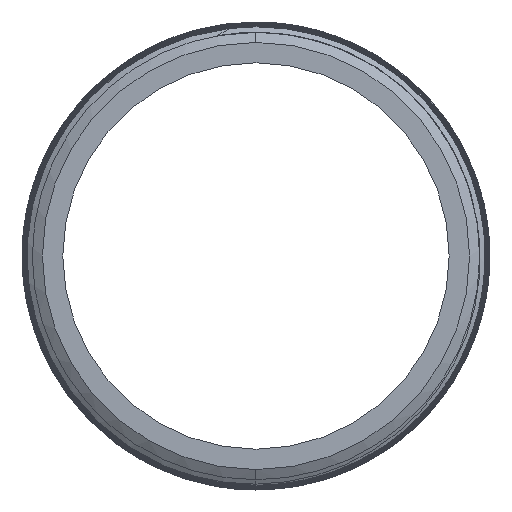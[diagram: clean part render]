
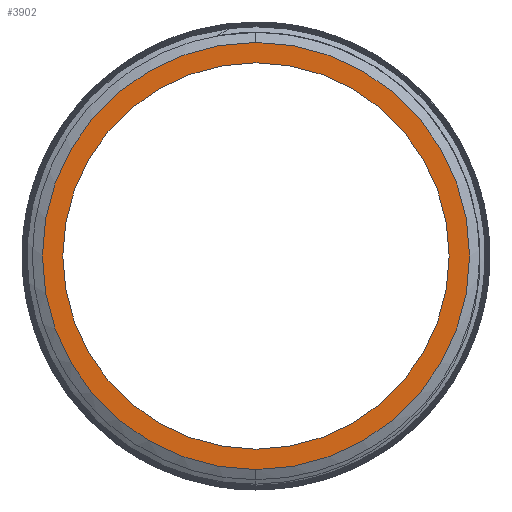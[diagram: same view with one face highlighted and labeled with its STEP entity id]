
A CAD part, left-side view. The second image highlights one B-rep face of the part: STEP entity #3902.
In plain terms, the highlighted planar face has unit normal (-1, 0, 0).
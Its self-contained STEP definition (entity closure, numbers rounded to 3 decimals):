
#55 = VERTEX_POINT ( 'NONE', #9703 ) ;
#447 = FACE_BOUND ( 'NONE', #8622, .T. ) ;
#564 = EDGE_CURVE ( 'NONE', #6176, #8098, #5219, .T. ) ;
#1011 = CARTESIAN_POINT ( 'NONE',  ( -75., 0., 0. ) ) ;
#1030 = CARTESIAN_POINT ( 'NONE',  ( -75., 0., 0. ) ) ;
#1523 = ORIENTED_EDGE ( 'NONE', *, *, #564, .T. ) ;
#2149 = AXIS2_PLACEMENT_3D ( 'NONE', #10056, #10911, #3140 ) ;
#2329 = AXIS2_PLACEMENT_3D ( 'NONE', #5525, #4732, #10816 ) ;
#2675 = ORIENTED_EDGE ( 'NONE', *, *, #8083, .T. ) ;
#2847 = CARTESIAN_POINT ( 'NONE',  ( -75., 0., -7.85 ) ) ;
#3128 = ORIENTED_EDGE ( 'NONE', *, *, #5037, .F. ) ;
#3140 = DIRECTION ( 'NONE',  ( 0., 0., 1. ) ) ;
#3336 = CARTESIAN_POINT ( 'NONE',  ( -75., 7.1, 0. ) ) ;
#3414 = EDGE_CURVE ( 'NONE', #55, #8102, #5043, .T. ) ;
#3902 = ADVANCED_FACE ( 'NONE', ( #447, #4234 ), #7629, .F. ) ;
#4234 = FACE_OUTER_BOUND ( 'NONE', #8612, .T. ) ;
#4732 = DIRECTION ( 'NONE',  ( -1., 0., 0. ) ) ;
#4809 = DIRECTION ( 'NONE',  ( 1., 0., 0. ) ) ;
#5037 = EDGE_CURVE ( 'NONE', #8102, #55, #8522, .T. ) ;
#5043 = CIRCLE ( 'NONE', #2149, 7.1 ) ;
#5219 = CIRCLE ( 'NONE', #2329, 7.85 ) ;
#5455 = CIRCLE ( 'NONE', #8531, 7.85 ) ;
#5525 = CARTESIAN_POINT ( 'NONE',  ( -75., 0., 0. ) ) ;
#5927 = AXIS2_PLACEMENT_3D ( 'NONE', #3336, #4809, #9342 ) ;
#6176 = VERTEX_POINT ( 'NONE', #7486 ) ;
#6183 = ORIENTED_EDGE ( 'NONE', *, *, #3414, .F. ) ;
#6790 = DIRECTION ( 'NONE',  ( 0., 0., 1. ) ) ;
#7486 = CARTESIAN_POINT ( 'NONE',  ( -75., 0., 7.85 ) ) ;
#7629 = PLANE ( 'NONE',  #5927 ) ;
#7814 = DIRECTION ( 'NONE',  ( -1., 0., 0. ) ) ;
#8083 = EDGE_CURVE ( 'NONE', #8098, #6176, #5455, .T. ) ;
#8098 = VERTEX_POINT ( 'NONE', #2847 ) ;
#8102 = VERTEX_POINT ( 'NONE', #8103 ) ;
#8103 = CARTESIAN_POINT ( 'NONE',  ( -75., 0., 7.1 ) ) ;
#8522 = CIRCLE ( 'NONE', #9445, 7.1 ) ;
#8531 = AXIS2_PLACEMENT_3D ( 'NONE', #1030, #10732, #9826 ) ;
#8612 = EDGE_LOOP ( 'NONE', ( #2675, #1523 ) ) ;
#8622 = EDGE_LOOP ( 'NONE', ( #3128, #6183 ) ) ;
#9342 = DIRECTION ( 'NONE',  ( 0., 0., -1. ) ) ;
#9445 = AXIS2_PLACEMENT_3D ( 'NONE', #1011, #7814, #6790 ) ;
#9703 = CARTESIAN_POINT ( 'NONE',  ( -75., 0., -7.1 ) ) ;
#9826 = DIRECTION ( 'NONE',  ( 0., 0., 1. ) ) ;
#10056 = CARTESIAN_POINT ( 'NONE',  ( -75., 0., 0. ) ) ;
#10732 = DIRECTION ( 'NONE',  ( -1., 0., 0. ) ) ;
#10816 = DIRECTION ( 'NONE',  ( 0., 0., 1. ) ) ;
#10911 = DIRECTION ( 'NONE',  ( -1., 0., 0. ) ) ;
